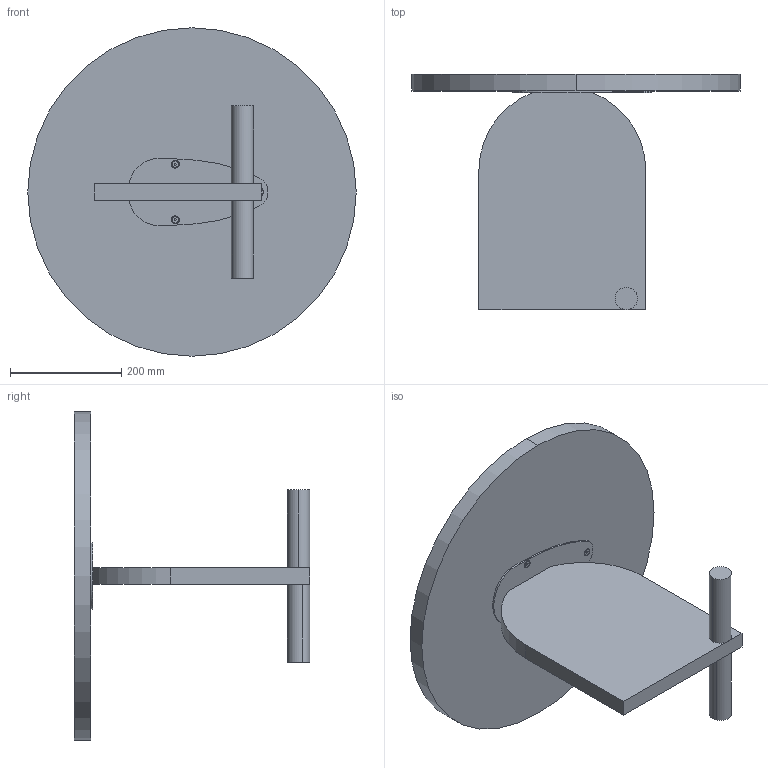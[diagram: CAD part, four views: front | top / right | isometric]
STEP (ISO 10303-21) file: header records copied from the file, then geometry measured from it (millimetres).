
FILE_DESCRIPTION (( 'STEP AP214' ), '1' );
FILE_NAME ('3D_NOVA_2_TABLE.STEP', '2024-03-26T15:46:20', ( '' ), ( '' ), 'SwSTEP 2.0', 'SolidWorks 2016', '' );
FILE_SCHEMA (( 'AUTOMOTIVE_DESIGN' ));
Length unit declared in the file: millimetre
Products named in the file (6): V2_CHAPA_MESAS_AUXILIARES; V2_SOBRE_MESA_BAJA_Ø59CM; V2_PATA_BAJA_30CM; TORNILLO M6x16 ALLEN AVELLANADO; 3D_NOVA_2_TABLE; V2_MACIZO_PARA_BASE_Ø40MM
Assembly tree (8 placements, depth 2):
  3D_NOVA_2_TABLE
    V2_SOBRE_MESA_BAJA_Ø59CM
    V2_PATA_BAJA_30CM
    V2_MACIZO_PARA_BASE_Ø40MM  x2
    V2_CHAPA_MESAS_AUXILIARES
    TORNILLO M6x16 ALLEN AVELLANADO  x3
Bounding box: 590 x 423 x 590 mm (x, y, z)
Volume: 11895774.2 mm3; surface area: 959675.8 mm2
Topology: 8 solids, 8 shells, 122 faces, 270 edges, 176 vertices
Faces by surface type: plane 51, cylinder 45, cone 26
Entity records: 2872 total; most frequent: DIRECTION 492, CARTESIAN_POINT 418, ORIENTED_EDGE 388, AXIS2_PLACEMENT_3D 202, EDGE_CURVE 194, VERTEX_POINT 128, EDGE_LOOP 110, CIRCLE 106
